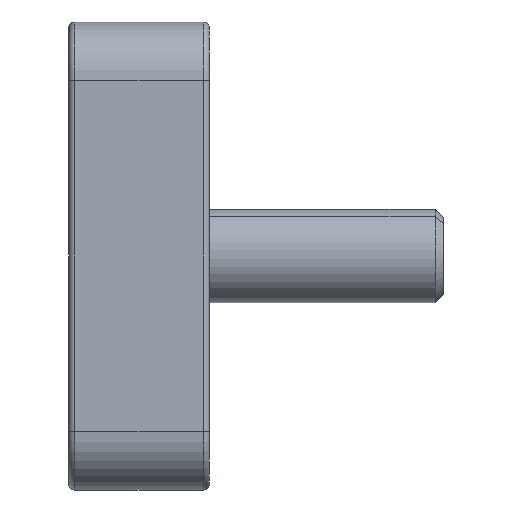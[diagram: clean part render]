
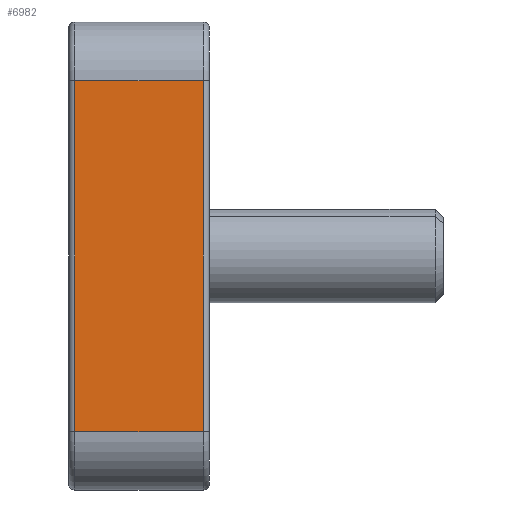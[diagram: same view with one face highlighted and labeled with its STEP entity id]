
A CAD part, left-side view. The second image highlights one B-rep face of the part: STEP entity #6982.
In plain terms, the highlighted planar face has unit normal (-1, 0, 0).
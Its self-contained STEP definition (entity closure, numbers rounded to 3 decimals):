
#197 = PLANE ( 'NONE',  #11219 ) ;
#245 = DIRECTION ( 'NONE',  ( 0., 0., -1. ) ) ;
#1123 = VECTOR ( 'NONE', #4348, 1000. ) ;
#1621 = LINE ( 'NONE', #5180, #1123 ) ;
#1729 = EDGE_CURVE ( 'NONE', #8386, #3220, #1621, .T. ) ;
#2249 = LINE ( 'NONE', #8415, #2467 ) ;
#2413 = ORIENTED_EDGE ( 'NONE', *, *, #6264, .T. ) ;
#2467 = VECTOR ( 'NONE', #8358, 1000. ) ;
#2535 = ORIENTED_EDGE ( 'NONE', *, *, #1729, .F. ) ;
#2795 = VERTEX_POINT ( 'NONE', #10016 ) ;
#3005 = LINE ( 'NONE', #10822, #11009 ) ;
#3071 = CARTESIAN_POINT ( 'NONE',  ( 597.212, 834.857, 1314.897 ) ) ;
#3206 = EDGE_CURVE ( 'NONE', #8386, #5850, #2249, .T. ) ;
#3220 = VERTEX_POINT ( 'NONE', #3071 ) ;
#3594 = CARTESIAN_POINT ( 'NONE',  ( 597.212, 845.857, 1314.897 ) ) ;
#3666 = EDGE_LOOP ( 'NONE', ( #2535, #7726, #9373, #2413 ) ) ;
#4169 = CARTESIAN_POINT ( 'NONE',  ( 597.212, 845.857, 1284.897 ) ) ;
#4348 = DIRECTION ( 'NONE',  ( 0., -1., 0. ) ) ;
#4825 = CARTESIAN_POINT ( 'NONE',  ( 597.212, 834.857, 1314.897 ) ) ;
#5050 = VECTOR ( 'NONE', #8494, 1000. ) ;
#5180 = CARTESIAN_POINT ( 'NONE',  ( 597.212, 846.357, 1314.897 ) ) ;
#5602 = DIRECTION ( 'NONE',  ( 1., 0., 0. ) ) ;
#5850 = VERTEX_POINT ( 'NONE', #4169 ) ;
#6264 = EDGE_CURVE ( 'NONE', #2795, #3220, #10486, .T. ) ;
#6317 = CARTESIAN_POINT ( 'NONE',  ( 597.212, 846.357, 1314.897 ) ) ;
#6453 = EDGE_CURVE ( 'NONE', #5850, #2795, #3005, .T. ) ;
#6982 = ADVANCED_FACE ( 'NONE', ( #10738 ), #197, .F. ) ;
#7726 = ORIENTED_EDGE ( 'NONE', *, *, #3206, .T. ) ;
#8358 = DIRECTION ( 'NONE',  ( 0., 0., -1. ) ) ;
#8386 = VERTEX_POINT ( 'NONE', #3594 ) ;
#8415 = CARTESIAN_POINT ( 'NONE',  ( 597.212, 845.857, 1284.897 ) ) ;
#8494 = DIRECTION ( 'NONE',  ( 0., 0., 1. ) ) ;
#9373 = ORIENTED_EDGE ( 'NONE', *, *, #6453, .T. ) ;
#10016 = CARTESIAN_POINT ( 'NONE',  ( 597.212, 834.857, 1284.897 ) ) ;
#10486 = LINE ( 'NONE', #4825, #5050 ) ;
#10738 = FACE_OUTER_BOUND ( 'NONE', #3666, .T. ) ;
#10822 = CARTESIAN_POINT ( 'NONE',  ( 597.212, 846.357, 1284.897 ) ) ;
#11009 = VECTOR ( 'NONE', #11057, 1000. ) ;
#11057 = DIRECTION ( 'NONE',  ( 0., -1., 0. ) ) ;
#11219 = AXIS2_PLACEMENT_3D ( 'NONE', #6317, #5602, #245 ) ;
